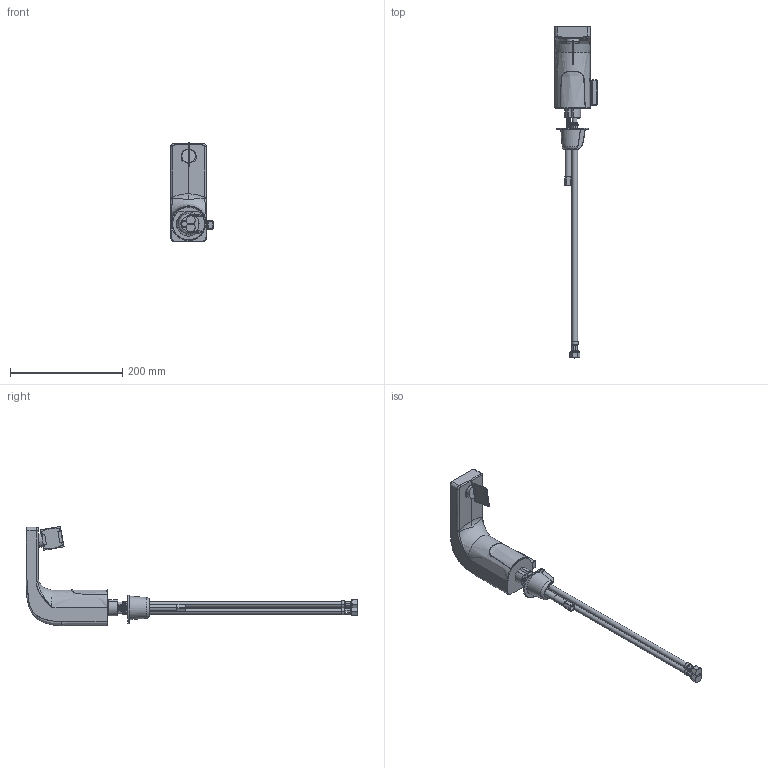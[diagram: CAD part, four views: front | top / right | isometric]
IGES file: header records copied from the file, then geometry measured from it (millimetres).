
Start section:  PTC IGES file: 116-870-ab-1_REV110612.igs
Global section: file name: 116-870-ab-1_REV110612.igs; native system: Creo Parametric by Parametric Technology Corporation; preprocessor: 2012230; author: sdmitruk; organization: Unknown; date: 20121106.100215; units: inch
Bounding box: 75.62 x 591.82 x 177.28 mm (x, y, z)
Surface area: 118096 mm2 (no closed solid volume)
Topology: 0 solids, 0 shells, 625 faces, 3610 edges, 3863 vertices
Faces by surface type: revolution 343, bspline 281, extrusion 1
